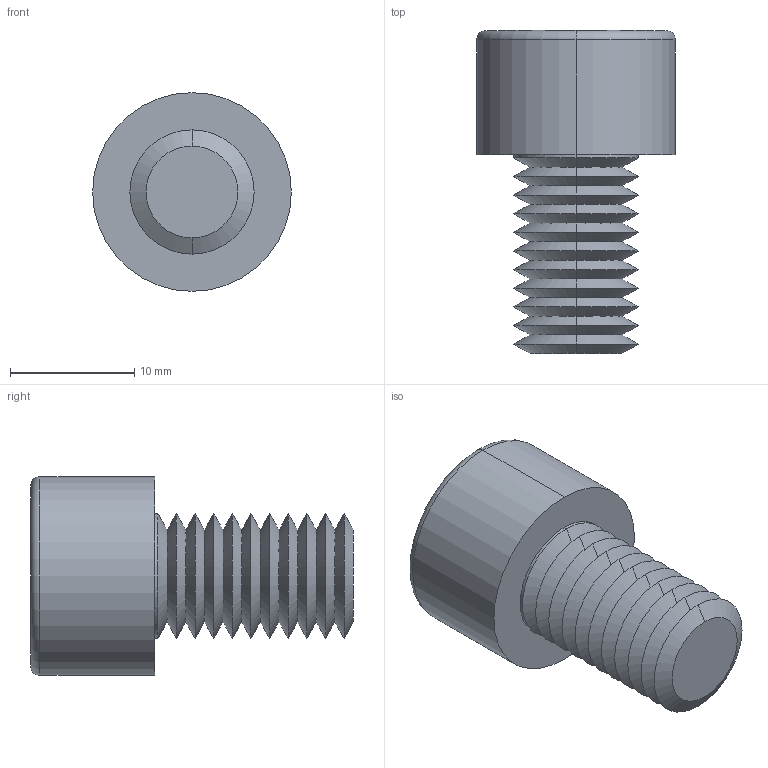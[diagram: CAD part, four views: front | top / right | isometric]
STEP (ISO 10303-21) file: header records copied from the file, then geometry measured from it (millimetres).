
FILE_DESCRIPTION (( 'STEP AP203' ), '1' );
FILE_NAME ('91N.100.0160.step', '2025-05-20T08:54:44', ( '' ), ( '' ), 'SwSTEP 2.0', 'SolidWorks 2019', '' );
FILE_SCHEMA (( 'CONFIG_CONTROL_DESIGN' ));
Length unit declared in the file: millimetre
Products named in the file (1): 91N.100.0160
Bounding box: 16 x 26 x 16 mm (x, y, z)
Volume: 2484.9 mm3; surface area: 1948.6 mm2
Topology: 1 solids, 1 shells, 72 faces, 143 edges, 73 vertices
Faces by surface type: cone 51, plane 15, cylinder 4, torus 2
Entity records: 1882 total; most frequent: DIRECTION 347, CARTESIAN_POINT 318, ORIENTED_EDGE 282, EDGE_CURVE 141, AXIS2_PLACEMENT_3D 140, EDGE_LOOP 74, VERTEX_POINT 73, FACE_OUTER_BOUND 72
